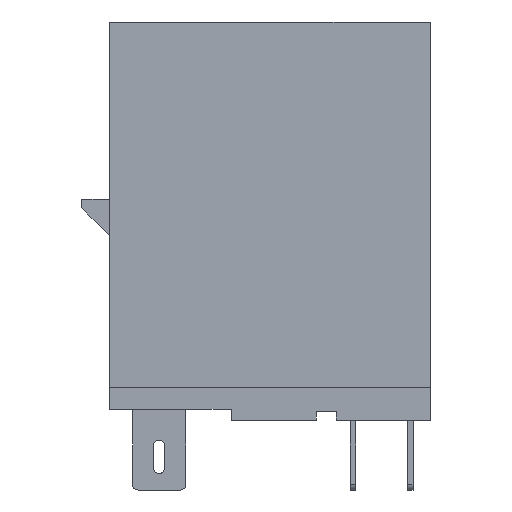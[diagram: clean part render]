
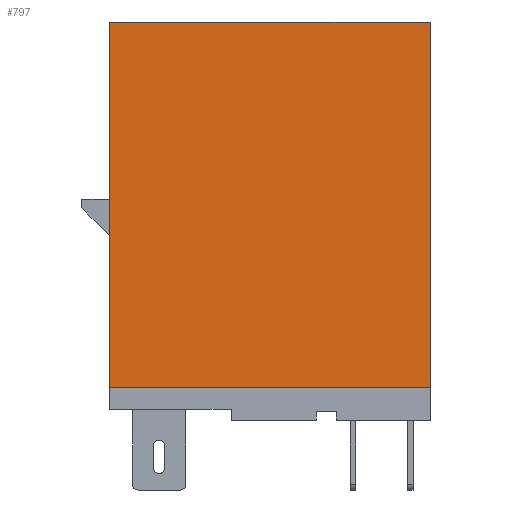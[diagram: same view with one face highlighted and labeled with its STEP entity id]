
A CAD part, front view. The second image highlights one B-rep face of the part: STEP entity #797.
In plain terms, the highlighted planar face has unit normal (0, -1, 0).
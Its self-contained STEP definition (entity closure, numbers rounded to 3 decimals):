
#797=ADVANCED_FACE('',(#1313),#1314,.F.);
#1313=FACE_OUTER_BOUND('',#1890,.T.);
#1314=PLANE('',#1891);
#1890=EDGE_LOOP('',(#3819,#3820,#3821,#3822));
#1891=AXIS2_PLACEMENT_3D('',#3823,#3824,#3825);
#3819=ORIENTED_EDGE('',*,*,#4891,.T.);
#3820=ORIENTED_EDGE('',*,*,#4894,.F.);
#3821=ORIENTED_EDGE('',*,*,#4885,.F.);
#3822=ORIENTED_EDGE('',*,*,#4895,.T.);
#3823=CARTESIAN_POINT('',(-14.5,-6.25,33.0));
#3824=DIRECTION('',(0.0,1.0,0.0));
#3825=DIRECTION('',(0.0,0.0,1.0));
#4885=EDGE_CURVE('',#6033,#6035,#6036,.T.);
#4891=EDGE_CURVE('',#6047,#6044,#6048,.T.);
#4894=EDGE_CURVE('',#6035,#6044,#6052,.T.);
#4895=EDGE_CURVE('',#6033,#6047,#6053,.T.);
#6033=VERTEX_POINT('',#7816);
#6035=VERTEX_POINT('',#7819);
#6036=LINE('',#7820,#7821);
#6044=VERTEX_POINT('',#7832);
#6047=VERTEX_POINT('',#7836);
#6048=LINE('',#7837,#7838);
#6052=LINE('',#7844,#7845);
#6053=LINE('',#7846,#7847);
#7816=CARTESIAN_POINT('',(-14.5,-6.25,33.0));
#7819=CARTESIAN_POINT('',(14.5,-6.25,33.0));
#7820=CARTESIAN_POINT('',(-14.5,-6.25,33.0));
#7821=VECTOR('',#8806,1.0);
#7832=CARTESIAN_POINT('',(14.5,-6.25,0.0));
#7836=CARTESIAN_POINT('',(-14.5,-6.25,0.0));
#7837=CARTESIAN_POINT('',(-14.5,-6.25,0.0));
#7838=VECTOR('',#8814,1.0);
#7844=CARTESIAN_POINT('',(14.5,-6.25,33.0));
#7845=VECTOR('',#8817,1.0);
#7846=CARTESIAN_POINT('',(-14.5,-6.25,33.0));
#7847=VECTOR('',#8818,1.0);
#8806=DIRECTION('',(1.0,0.0,0.0));
#8814=DIRECTION('',(1.0,0.0,0.0));
#8817=DIRECTION('',(0.0,0.0,-1.0));
#8818=DIRECTION('',(0.0,0.0,-1.0));
